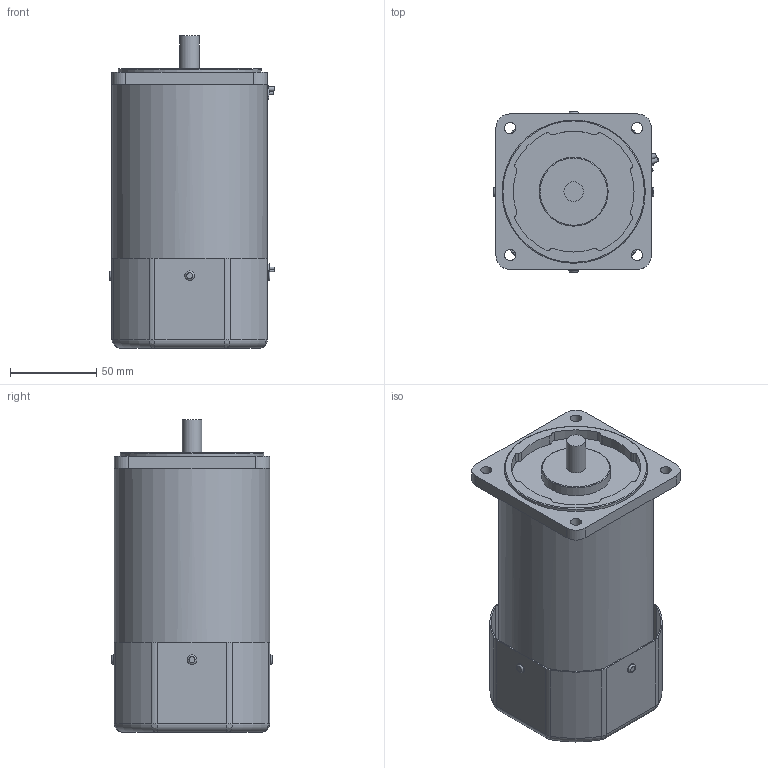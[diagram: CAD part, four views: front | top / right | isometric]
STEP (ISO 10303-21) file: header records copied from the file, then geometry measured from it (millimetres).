
FILE_DESCRIPTION((''),'2;1');
FILE_NAME('E:\2공장-도면\3D\표준형 3D(민규)\step file\SU,SP\K9IP60Fㅁ-Sㅁ.stp','2014-11-14T14:06:48',('AHN'),(''),'Autodesk Inventor 2012','Autodesk Inventor 2012','');
FILE_SCHEMA(('CONFIG_CONTROL_DESIGN'));
Length unit declared in the file: millimetre
Products named in the file (1): K9IP60Fㅁ-Sㅁ
Bounding box: 95.71 x 93 x 181 mm (x, y, z)
Volume: 940080.5 mm3; surface area: 98833.4 mm2
Topology: 1 solids, 1 shells, 249 faces, 615 edges, 373 vertices
Faces by surface type: cylinder 127, plane 76, torus 38, bspline 8
Full cylindrical faces by diameter (mm): 1.4 x2, 5.5 x4, 6.5 x4, 7 x2, 8 x4, 11.3 x1, 40 x1, 83 x1, 90 x1
Entity records: 8015 total; most frequent: CARTESIAN_POINT 2097, DIRECTION 1277, ORIENTED_EDGE 1172, EDGE_CURVE 586, AXIS2_PLACEMENT_3D 508, VERTEX_POINT 368, EDGE_LOOP 320, CIRCLE 266
